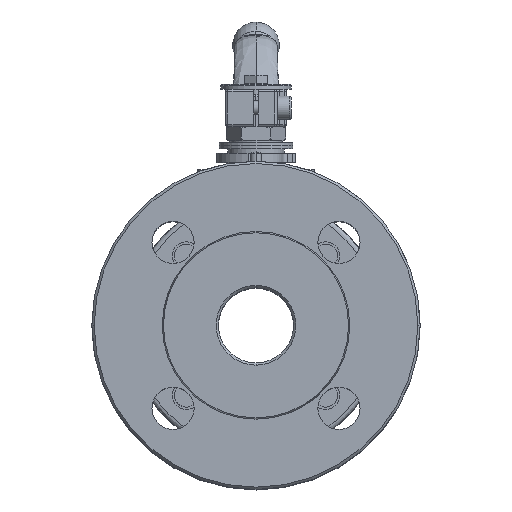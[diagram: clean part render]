
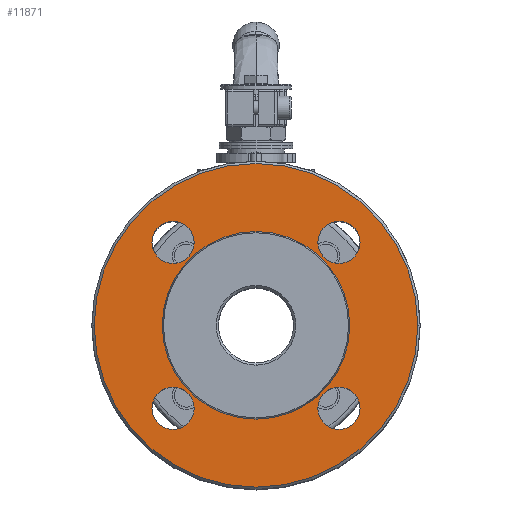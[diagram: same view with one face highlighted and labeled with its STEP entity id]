
A CAD part, top view. The second image highlights one B-rep face of the part: STEP entity #11871.
In plain terms, the highlighted planar face has unit normal (0, 0, 1) as drawn and (0, -1, 0) by its records, which use the part's own axes.
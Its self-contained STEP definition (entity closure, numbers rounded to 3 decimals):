
#365 = AXIS2_PLACEMENT_3D ( 'NONE', #32673, #5210, #26635 ) ;
#436 = VERTEX_POINT ( 'NONE', #3879 ) ;
#568 = EDGE_CURVE ( 'NONE', #12358, #17605, #12683, .T. ) ;
#1079 = EDGE_CURVE ( 'NONE', #28099, #23761, #2106, .T. ) ;
#1293 = EDGE_LOOP ( 'NONE', ( #16052, #16265 ) ) ;
#1481 = CIRCLE ( 'NONE', #26600, 9. ) ;
#2047 = DIRECTION ( 'NONE',  ( 0., 0., 1. ) ) ;
#2106 = CIRCLE ( 'NONE', #26628, 9. ) ;
#2886 = AXIS2_PLACEMENT_3D ( 'NONE', #35516, #38579, #20282 ) ;
#3105 = CARTESIAN_POINT ( 'NONE',  ( 35.355, -37.5, -44.355 ) ) ;
#3664 = EDGE_LOOP ( 'NONE', ( #11698, #10025 ) ) ;
#3879 = CARTESIAN_POINT ( 'NONE',  ( 69., -37.5, 0. ) ) ;
#3981 = EDGE_CURVE ( 'NONE', #32715, #11362, #5307, .T. ) ;
#4188 = AXIS2_PLACEMENT_3D ( 'NONE', #13027, #22016, #19186 ) ;
#4242 = CARTESIAN_POINT ( 'NONE',  ( 0., -37.5, -40. ) ) ;
#4906 = VERTEX_POINT ( 'NONE', #3105 ) ;
#4988 = ORIENTED_EDGE ( 'NONE', *, *, #24606, .T. ) ;
#5210 = DIRECTION ( 'NONE',  ( 0., 1., 0. ) ) ;
#5307 = CIRCLE ( 'NONE', #28256, 9. ) ;
#5512 = DIRECTION ( 'NONE',  ( 0., 1., 0. ) ) ;
#5850 = DIRECTION ( 'NONE',  ( 0., 0., 1. ) ) ;
#5907 = DIRECTION ( 'NONE',  ( 0., 1., 0. ) ) ;
#6020 = FACE_BOUND ( 'NONE', #22167, .T. ) ;
#6073 = CARTESIAN_POINT ( 'NONE',  ( 35.355, -37.5, -35.355 ) ) ;
#7174 = CARTESIAN_POINT ( 'NONE',  ( -35.355, -37.5, 35.355 ) ) ;
#7843 = DIRECTION ( 'NONE',  ( 0., 1., 0. ) ) ;
#8567 = CIRCLE ( 'NONE', #32877, 9. ) ;
#8599 = CIRCLE ( 'NONE', #19515, 69. ) ;
#8864 = DIRECTION ( 'NONE',  ( 0., 0., 1. ) ) ;
#8995 = EDGE_CURVE ( 'NONE', #19319, #436, #17648, .T. ) ;
#10025 = ORIENTED_EDGE ( 'NONE', *, *, #1079, .T. ) ;
#10527 = CARTESIAN_POINT ( 'NONE',  ( 35.355, -37.5, 35.355 ) ) ;
#10924 = DIRECTION ( 'NONE',  ( 0., 0., 1. ) ) ;
#11068 = DIRECTION ( 'NONE',  ( -1., 0., 0. ) ) ;
#11362 = VERTEX_POINT ( 'NONE', #16434 ) ;
#11492 = CIRCLE ( 'NONE', #365, 9. ) ;
#11698 = ORIENTED_EDGE ( 'NONE', *, *, #32690, .T. ) ;
#11871 = ADVANCED_FACE ( 'NONE', ( #31425, #15144, #38549, #6020, #26121, #25150 ), #34179, .T. ) ;
#12358 = VERTEX_POINT ( 'NONE', #16202 ) ;
#12683 = CIRCLE ( 'NONE', #35079, 40. ) ;
#13027 = CARTESIAN_POINT ( 'NONE',  ( 0., -37.5, -55. ) ) ;
#13491 = CARTESIAN_POINT ( 'NONE',  ( 0., -37.5, 0. ) ) ;
#13602 = DIRECTION ( 'NONE',  ( 0., 1., 0. ) ) ;
#14000 = VERTEX_POINT ( 'NONE', #39526 ) ;
#14281 = CARTESIAN_POINT ( 'NONE',  ( -35.355, -37.5, -35.355 ) ) ;
#15144 = FACE_BOUND ( 'NONE', #30204, .T. ) ;
#15433 = DIRECTION ( 'NONE',  ( -1., 0., 0. ) ) ;
#15805 = DIRECTION ( 'NONE',  ( 0., 1., 0. ) ) ;
#16052 = ORIENTED_EDGE ( 'NONE', *, *, #16645, .T. ) ;
#16202 = CARTESIAN_POINT ( 'NONE',  ( 0., -37.5, 40. ) ) ;
#16265 = ORIENTED_EDGE ( 'NONE', *, *, #19982, .T. ) ;
#16434 = CARTESIAN_POINT ( 'NONE',  ( -35.355, -37.5, 26.355 ) ) ;
#16473 = ORIENTED_EDGE ( 'NONE', *, *, #36506, .T. ) ;
#16645 = EDGE_CURVE ( 'NONE', #14000, #36794, #1481, .T. ) ;
#16957 = CARTESIAN_POINT ( 'NONE',  ( -69., -37.5, 0. ) ) ;
#17605 = VERTEX_POINT ( 'NONE', #4242 ) ;
#17648 = CIRCLE ( 'NONE', #2886, 69. ) ;
#17686 = EDGE_CURVE ( 'NONE', #17605, #12358, #39265, .T. ) ;
#17966 = VERTEX_POINT ( 'NONE', #33566 ) ;
#17991 = DIRECTION ( 'NONE',  ( 0., 1., 0. ) ) ;
#18185 = EDGE_LOOP ( 'NONE', ( #25682, #28073 ) ) ;
#18851 = DIRECTION ( 'NONE',  ( 0., 1., 0. ) ) ;
#18897 = ORIENTED_EDGE ( 'NONE', *, *, #3981, .T. ) ;
#19186 = DIRECTION ( 'NONE',  ( 0., 0., -1. ) ) ;
#19319 = VERTEX_POINT ( 'NONE', #16957 ) ;
#19515 = AXIS2_PLACEMENT_3D ( 'NONE', #34127, #24878, #37324 ) ;
#19982 = EDGE_CURVE ( 'NONE', #36794, #14000, #21213, .T. ) ;
#20282 = DIRECTION ( 'NONE',  ( -1., 0., 0. ) ) ;
#21213 = CIRCLE ( 'NONE', #26207, 9. ) ;
#21326 = AXIS2_PLACEMENT_3D ( 'NONE', #13491, #34915, #34519 ) ;
#22016 = DIRECTION ( 'NONE',  ( 0., -1., 0. ) ) ;
#22088 = EDGE_CURVE ( 'NONE', #17966, #4906, #11492, .T. ) ;
#22167 = EDGE_LOOP ( 'NONE', ( #18897, #16473 ) ) ;
#23761 = VERTEX_POINT ( 'NONE', #31801 ) ;
#24606 = EDGE_CURVE ( 'NONE', #4906, #17966, #32478, .T. ) ;
#24878 = DIRECTION ( 'NONE',  ( 0., -1., 0. ) ) ;
#24906 = DIRECTION ( 'NONE',  ( 0., 1., 0. ) ) ;
#25150 = FACE_BOUND ( 'NONE', #25988, .T. ) ;
#25682 = ORIENTED_EDGE ( 'NONE', *, *, #8995, .T. ) ;
#25988 = EDGE_LOOP ( 'NONE', ( #33754, #4988 ) ) ;
#26121 = FACE_BOUND ( 'NONE', #1293, .T. ) ;
#26207 = AXIS2_PLACEMENT_3D ( 'NONE', #27211, #5907, #15433 ) ;
#26600 = AXIS2_PLACEMENT_3D ( 'NONE', #14281, #7843, #11068 ) ;
#26624 = CARTESIAN_POINT ( 'NONE',  ( -26.355, -37.5, -35.355 ) ) ;
#26628 = AXIS2_PLACEMENT_3D ( 'NONE', #10527, #13602, #10924 ) ;
#26635 = DIRECTION ( 'NONE',  ( 0., 0., 1. ) ) ;
#27211 = CARTESIAN_POINT ( 'NONE',  ( -35.355, -37.5, -35.355 ) ) ;
#28073 = ORIENTED_EDGE ( 'NONE', *, *, #35542, .T. ) ;
#28099 = VERTEX_POINT ( 'NONE', #29155 ) ;
#28256 = AXIS2_PLACEMENT_3D ( 'NONE', #7174, #15805, #28496 ) ;
#28496 = DIRECTION ( 'NONE',  ( 0., 0., 1. ) ) ;
#29155 = CARTESIAN_POINT ( 'NONE',  ( 35.355, -37.5, 26.355 ) ) ;
#29401 = AXIS2_PLACEMENT_3D ( 'NONE', #6073, #17991, #8864 ) ;
#30204 = EDGE_LOOP ( 'NONE', ( #30667, #36832 ) ) ;
#30586 = AXIS2_PLACEMENT_3D ( 'NONE', #37348, #24906, #34022 ) ;
#30667 = ORIENTED_EDGE ( 'NONE', *, *, #568, .T. ) ;
#31425 = FACE_OUTER_BOUND ( 'NONE', #18185, .T. ) ;
#31801 = CARTESIAN_POINT ( 'NONE',  ( 35.355, -37.5, 44.355 ) ) ;
#32478 = CIRCLE ( 'NONE', #29401, 9. ) ;
#32673 = CARTESIAN_POINT ( 'NONE',  ( 35.355, -37.5, -35.355 ) ) ;
#32690 = EDGE_CURVE ( 'NONE', #23761, #28099, #34623, .T. ) ;
#32715 = VERTEX_POINT ( 'NONE', #34151 ) ;
#32877 = AXIS2_PLACEMENT_3D ( 'NONE', #35763, #5512, #2047 ) ;
#33566 = CARTESIAN_POINT ( 'NONE',  ( 35.355, -37.5, -26.355 ) ) ;
#33754 = ORIENTED_EDGE ( 'NONE', *, *, #22088, .T. ) ;
#34022 = DIRECTION ( 'NONE',  ( 0., 0., 1. ) ) ;
#34127 = CARTESIAN_POINT ( 'NONE',  ( 0., -37.5, 0. ) ) ;
#34151 = CARTESIAN_POINT ( 'NONE',  ( -35.355, -37.5, 44.355 ) ) ;
#34179 = PLANE ( 'NONE',  #4188 ) ;
#34519 = DIRECTION ( 'NONE',  ( 0., 0., 1. ) ) ;
#34623 = CIRCLE ( 'NONE', #30586, 9. ) ;
#34915 = DIRECTION ( 'NONE',  ( 0., 1., 0. ) ) ;
#35079 = AXIS2_PLACEMENT_3D ( 'NONE', #39439, #18851, #5850 ) ;
#35516 = CARTESIAN_POINT ( 'NONE',  ( 0., -37.5, 0. ) ) ;
#35542 = EDGE_CURVE ( 'NONE', #436, #19319, #8599, .T. ) ;
#35763 = CARTESIAN_POINT ( 'NONE',  ( -35.355, -37.5, 35.355 ) ) ;
#36506 = EDGE_CURVE ( 'NONE', #11362, #32715, #8567, .T. ) ;
#36794 = VERTEX_POINT ( 'NONE', #26624 ) ;
#36832 = ORIENTED_EDGE ( 'NONE', *, *, #17686, .T. ) ;
#37324 = DIRECTION ( 'NONE',  ( -1., 0., 0. ) ) ;
#37348 = CARTESIAN_POINT ( 'NONE',  ( 35.355, -37.5, 35.355 ) ) ;
#38549 = FACE_BOUND ( 'NONE', #3664, .T. ) ;
#38579 = DIRECTION ( 'NONE',  ( 0., -1., 0. ) ) ;
#39265 = CIRCLE ( 'NONE', #21326, 40. ) ;
#39439 = CARTESIAN_POINT ( 'NONE',  ( 0., -37.5, 0. ) ) ;
#39526 = CARTESIAN_POINT ( 'NONE',  ( -44.355, -37.5, -35.355 ) ) ;
